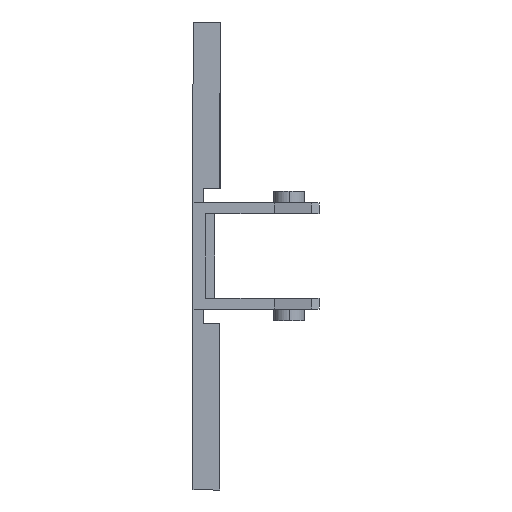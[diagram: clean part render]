
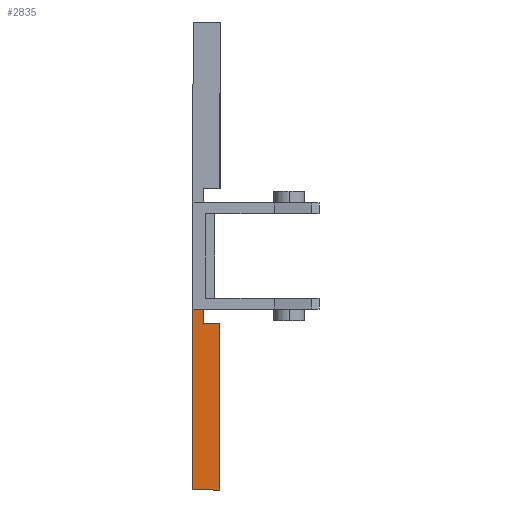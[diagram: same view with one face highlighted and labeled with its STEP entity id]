
A CAD part, front view. The second image highlights one B-rep face of the part: STEP entity #2835.
In plain terms, the highlighted planar face has unit normal (0, -1, 0).
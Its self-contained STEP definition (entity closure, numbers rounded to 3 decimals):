
#75 = EDGE_CURVE ( 'NONE', #1688, #1815, #489, .T. ) ;
#125 = EDGE_CURVE ( 'NONE', #1694, #1692, #758, .T. ) ;
#162 = EDGE_CURVE ( 'NONE', #1649, #1688, #493, .T. ) ;
#191 = EDGE_CURVE ( 'NONE', #1807, #1649, #651, .T. ) ;
#193 = EDGE_CURVE ( 'NONE', #1807, #1692, #443, .T. ) ;
#199 = AXIS2_PLACEMENT_3D ( 'NONE', #2820, #2501, #2502 ) ;
#276 = EDGE_CURVE ( 'NONE', #1815, #1694, #1358, .T. ) ;
#441 = VECTOR ( 'NONE', #1931, 1000. ) ;
#443 = LINE ( 'NONE', #1889, #1200 ) ;
#484 = VECTOR ( 'NONE', #1785, 1000. ) ;
#489 = LINE ( 'NONE', #1782, #484 ) ;
#493 = LINE ( 'NONE', #1930, #441 ) ;
#644 = VECTOR ( 'NONE', #1893, 1000. ) ;
#645 = ORIENTED_EDGE ( 'NONE', *, *, #75, .T. ) ;
#646 = ORIENTED_EDGE ( 'NONE', *, *, #162, .T. ) ;
#647 = ORIENTED_EDGE ( 'NONE', *, *, #276, .T. ) ;
#648 = ORIENTED_EDGE ( 'NONE', *, *, #191, .T. ) ;
#651 = LINE ( 'NONE', #1892, #644 ) ;
#652 = ORIENTED_EDGE ( 'NONE', *, *, #193, .F. ) ;
#655 = ORIENTED_EDGE ( 'NONE', *, *, #125, .T. ) ;
#758 = LINE ( 'NONE', #1983, #760 ) ;
#760 = VECTOR ( 'NONE', #1984, 1000. ) ;
#835 = EDGE_LOOP ( 'NONE', ( #652, #648, #646, #645, #647, #655 ) ) ;
#1200 = VECTOR ( 'NONE', #1890, 1000. ) ;
#1221 = FACE_OUTER_BOUND ( 'NONE', #835, .T. ) ;
#1358 = LINE ( 'NONE', #2118, #1372 ) ;
#1372 = VECTOR ( 'NONE', #2125, 1000. ) ;
#1649 = VERTEX_POINT ( 'NONE', #2351 ) ;
#1688 = VERTEX_POINT ( 'NONE', #2395 ) ;
#1692 = VERTEX_POINT ( 'NONE', #2399 ) ;
#1694 = VERTEX_POINT ( 'NONE', #2401 ) ;
#1782 = CARTESIAN_POINT ( 'NONE',  ( 3., -9., -7.5 ) ) ;
#1785 = DIRECTION ( 'NONE',  ( 0., 0., 1. ) ) ;
#1807 = VERTEX_POINT ( 'NONE', #2488 ) ;
#1815 = VERTEX_POINT ( 'NONE', #2480 ) ;
#1889 = CARTESIAN_POINT ( 'NONE',  ( 1.2, -9., -5.9 ) ) ;
#1890 = DIRECTION ( 'NONE',  ( 1., 0., 0. ) ) ;
#1892 = CARTESIAN_POINT ( 'NONE',  ( 0., -9., -26. ) ) ;
#1893 = DIRECTION ( 'NONE',  ( 0., 0., -1. ) ) ;
#1930 = CARTESIAN_POINT ( 'NONE',  ( 3., -9., -26. ) ) ;
#1931 = DIRECTION ( 'NONE',  ( 1., 0., 0. ) ) ;
#1983 = CARTESIAN_POINT ( 'NONE',  ( 1.2, -9., -5. ) ) ;
#1984 = DIRECTION ( 'NONE',  ( 0., 0., 1. ) ) ;
#2118 = CARTESIAN_POINT ( 'NONE',  ( 1.2, -9., -7.5 ) ) ;
#2125 = DIRECTION ( 'NONE',  ( -1., 0., 0. ) ) ;
#2351 = CARTESIAN_POINT ( 'NONE',  ( 0., -9., -26. ) ) ;
#2395 = CARTESIAN_POINT ( 'NONE',  ( 3., -9., -26. ) ) ;
#2399 = CARTESIAN_POINT ( 'NONE',  ( 1.2, -9., -5.9 ) ) ;
#2401 = CARTESIAN_POINT ( 'NONE',  ( 1.2, -9., -7.5 ) ) ;
#2480 = CARTESIAN_POINT ( 'NONE',  ( 3., -9., -7.5 ) ) ;
#2488 = CARTESIAN_POINT ( 'NONE',  ( 0., -9., -5.9 ) ) ;
#2501 = DIRECTION ( 'NONE',  ( 0., 1., 0. ) ) ;
#2502 = DIRECTION ( 'NONE',  ( 0., 0., 1. ) ) ;
#2813 = PLANE ( 'NONE',  #199 ) ;
#2820 = CARTESIAN_POINT ( 'NONE',  ( 1.2, -9., -5. ) ) ;
#2835 = ADVANCED_FACE ( 'NONE', ( #1221 ), #2813, .F. ) ;
